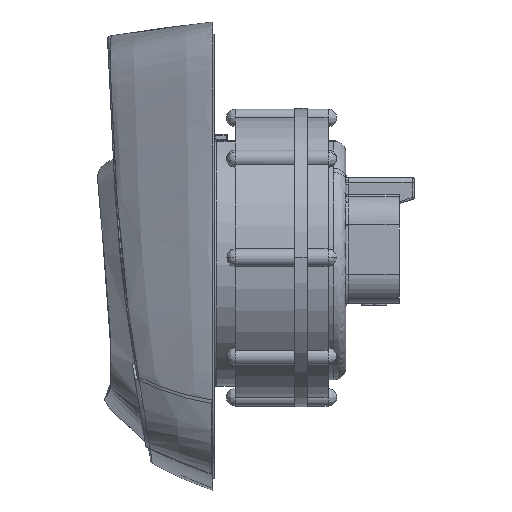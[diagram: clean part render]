
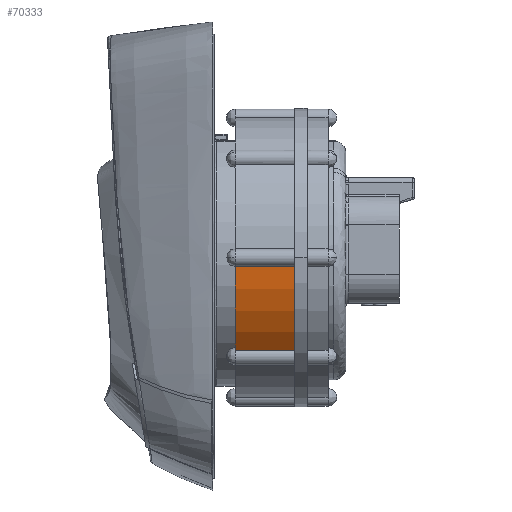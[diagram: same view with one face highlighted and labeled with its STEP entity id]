
A CAD part, left-side view. The second image highlights one B-rep face of the part: STEP entity #70333.
In plain terms, the highlighted cylindrical face has radius 28.105 mm (diameter 56.21 mm), a partial arc.
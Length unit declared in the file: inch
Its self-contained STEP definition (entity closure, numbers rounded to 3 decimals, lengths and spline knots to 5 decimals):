
#68627 = VERTEX_POINT ( 'NONE', #236950 ) ;
#69156 = VERTEX_POINT ( 'NONE', #238539 ) ;
#69160 = EDGE_CURVE ( 'NONE', #69156, #69205, #238533, .T. ) ;
#69205 = VERTEX_POINT ( 'NONE', #238757 ) ;
#69801 = VERTEX_POINT ( 'NONE', #240061 ) ;
#69805 = EDGE_CURVE ( 'NONE', #69801, #68627, #240056, .T. ) ;
#69922 = EDGE_CURVE ( 'NONE', #69205, #69801, #240306, .T. ) ;
#70333 = ADVANCED_FACE ( 'NONE', ( #241550 ), #241549, .T. ) ;
#70336 = EDGE_LOOP ( 'NONE', ( #70338, #70340, #70344, #70346 ) ) ;
#70338 = ORIENTED_EDGE ( 'NONE', *, *, #69160, .F. ) ;
#70340 = ORIENTED_EDGE ( 'NONE', *, *, #70342, .F. ) ;
#70342 = EDGE_CURVE ( 'NONE', #68627, #69156, #241530, .T. ) ;
#70344 = ORIENTED_EDGE ( 'NONE', *, *, #69805, .F. ) ;
#70346 = ORIENTED_EDGE ( 'NONE', *, *, #69922, .F. ) ;
#236950 = CARTESIAN_POINT ( 'NONE',  ( -0.82968, 0.6, -0.7946 ) ) ;
#238533 = LINE ( 'NONE', #238692, #238691 ) ;
#238539 = CARTESIAN_POINT ( 'NONE',  ( -1.10435, 0.6, -0.1315 ) ) ;
#238689 = DIRECTION ( 'NONE',  ( 0., -1., 0. ) ) ;
#238691 = VECTOR ( 'NONE', #238689, 39.37008 ) ;
#238692 = CARTESIAN_POINT ( 'NONE',  ( -1.10435, 0.3645, -0.1315 ) ) ;
#238757 = CARTESIAN_POINT ( 'NONE',  ( -1.10435, 0.129, -0.1315 ) ) ;
#240051 = DIRECTION ( 'NONE',  ( 0., 1., 0. ) ) ;
#240052 = VECTOR ( 'NONE', #240051, 39.37008 ) ;
#240054 = CARTESIAN_POINT ( 'NONE',  ( -0.82968, 0.3645, -0.7946 ) ) ;
#240056 = LINE ( 'NONE', #240054, #240052 ) ;
#240061 = CARTESIAN_POINT ( 'NONE',  ( -0.82968, 0.129, -0.7946 ) ) ;
#240299 = DIRECTION ( 'NONE',  ( 0., 0., 1. ) ) ;
#240301 = DIRECTION ( 'NONE',  ( 0., -1., 0. ) ) ;
#240303 = CARTESIAN_POINT ( 'NONE',  ( 0., 0.129, -0.0625 ) ) ;
#240304 = AXIS2_PLACEMENT_3D ( 'NONE', #240303, #240301, #240299 ) ;
#240306 = CIRCLE ( 'NONE', #240304, 1.1065 ) ;
#241524 = DIRECTION ( 'NONE',  ( 0., 0., 1. ) ) ;
#241526 = DIRECTION ( 'NONE',  ( 0., 1., 0. ) ) ;
#241528 = AXIS2_PLACEMENT_3D ( 'NONE', #241543, #241526, #241524 ) ;
#241530 = CIRCLE ( 'NONE', #241528, 1.1065 ) ;
#241536 = DIRECTION ( 'NONE',  ( 0., 0., 1. ) ) ;
#241538 = DIRECTION ( 'NONE',  ( 0., 1., 0. ) ) ;
#241539 = CARTESIAN_POINT ( 'NONE',  ( 0., 0.129, -0.0625 ) ) ;
#241541 = AXIS2_PLACEMENT_3D ( 'NONE', #241539, #241538, #241536 ) ;
#241543 = CARTESIAN_POINT ( 'NONE',  ( 0., 0.6, -0.0625 ) ) ;
#241549 = CYLINDRICAL_SURFACE ( 'NONE', #241541, 1.1065 ) ;
#241550 = FACE_OUTER_BOUND ( 'NONE', #70336, .T. ) ;
